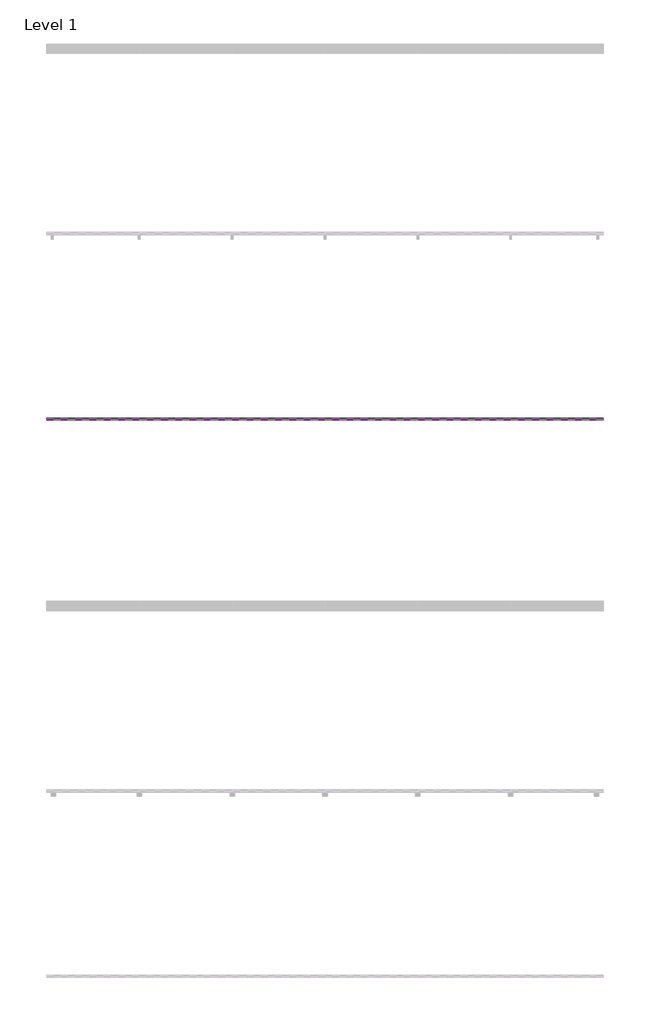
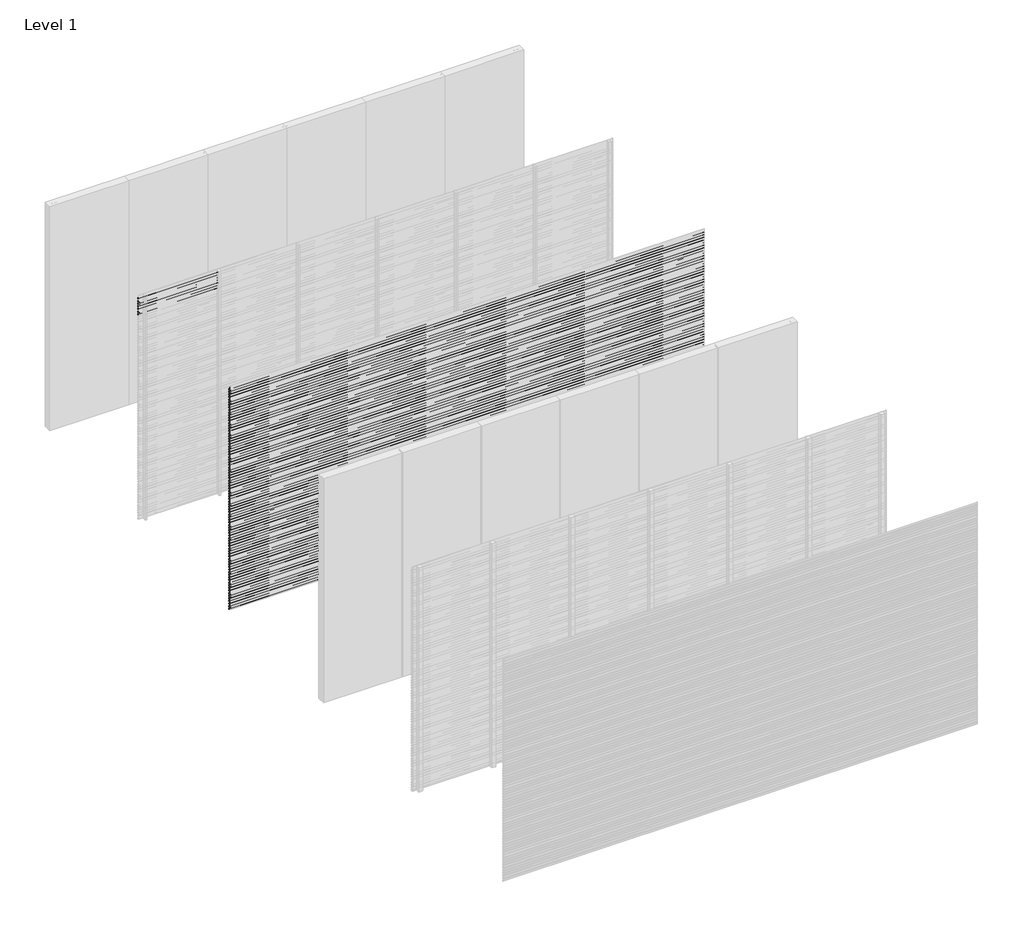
# One storey, part 14 of 25: 98 proxies.
"""IFC4 building model written with IfcOpenShell, lengths in millimetres."""

from ifc_helpers import new_model, si_unit, frame, origin, place, context, project, spatial, polyline, outline, extrude, element, save

model = new_model("IFC4")

# Units and contexts
model_context = context("Model", 3, world=origin())
ifc_project = project(units=[si_unit("LENGTHUNIT", "METRE", prefix="MILLI")], contexts=[model_context])

# Site, building, storey
site = spatial("IfcSite", under=ifc_project)
building = spatial("IfcBuilding", under=site)
storey = spatial("IfcBuildingStorey", under=building, Name="Level 1", Elevation=0.0)

# Proxies
placement = place(None, origin())
element("IfcBuildingElementProxy", 1, Name="Wall Sweeps", at=placement, inside=storey, context=model_context, shape_type="SweptSolid", body=[
    extrude(outline(polyline([(-5995.0, 2975.0), (-5995.0, 2963.942893), (-5976.0, 2948.0), (-5976.0, 2935.0), (-5997.0, 2952.6210923), (-5997.0, 2975.0), (-5995.0, 2975.0)])), frame((0.0, 0.0, 0.0), z_axis=(1.0, 0.0, 0.0), x_axis=(0.0, 1.0, 0.0)), (0.0, 0.0, 1.0), 1000.0),
])
element("IfcBuildingElementProxy", 2, Name="Wall Sweeps", at=placement, inside=storey, context=model_context, shape_type="SweptSolid", body=[
    extrude(outline(polyline([(-5995.0, 2940.0), (-5995.0, 2928.942893), (-5976.0, 2913.0), (-5976.0, 2900.0), (-5997.0, 2917.6210923), (-5997.0, 2940.0), (-5995.0, 2940.0)])), frame((0.0, 0.0, 0.0), z_axis=(1.0, 0.0, 0.0), x_axis=(0.0, 1.0, 0.0)), (0.0, 0.0, 1.0), 1000.0),
])
element("IfcBuildingElementProxy", 3, Name="Wall Sweeps", at=placement, inside=storey, context=model_context, shape_type="SweptSolid", body=[
    extrude(outline(polyline([(-5995.0, 2905.0), (-5995.0, 2893.942893), (-5976.0, 2878.0), (-5976.0, 2865.0), (-5997.0, 2882.6210923), (-5997.0, 2905.0), (-5995.0, 2905.0)])), frame((0.0, 0.0, 0.0), z_axis=(1.0, 0.0, 0.0), x_axis=(0.0, 1.0, 0.0)), (0.0, 0.0, 1.0), 1000.0),
])
element("IfcBuildingElementProxy", 4, Name="Wall Sweeps", at=placement, inside=storey, context=model_context, shape_type="SweptSolid", body=[
    extrude(outline(polyline([(-5995.0, 2870.0), (-5995.0, 2858.942893), (-5976.0, 2843.0), (-5976.0, 2830.0), (-5997.0, 2847.6210923), (-5997.0, 2870.0), (-5995.0, 2870.0)])), frame((0.0, 0.0, 0.0), z_axis=(1.0, 0.0, 0.0), x_axis=(0.0, 1.0, 0.0)), (0.0, 0.0, 1.0), 1000.0),
])
element("IfcBuildingElementProxy", 5, Name="Wall Sweeps", at=placement, inside=storey, context=model_context, shape_type="SweptSolid", body=[
    extrude(outline(polyline([(-5995.0, 2835.0), (-5995.0, 2823.942893), (-5976.0, 2808.0), (-5976.0, 2795.0), (-5997.0, 2812.6210923), (-5997.0, 2835.0), (-5995.0, 2835.0)])), frame((0.0, 0.0, 0.0), z_axis=(1.0, 0.0, 0.0), x_axis=(0.0, 1.0, 0.0)), (0.0, 0.0, 1.0), 1000.0),
])
element("IfcBuildingElementProxy", 6, Name="Wall Sweeps", at=placement, inside=storey, context=model_context, shape_type="SweptSolid", body=[
    extrude(outline(polyline([(-5995.0, 2800.0), (-5995.0, 2788.942893), (-5976.0, 2773.0), (-5976.0, 2760.0), (-5997.0, 2777.6210923), (-5997.0, 2800.0), (-5995.0, 2800.0)])), frame((0.0, 0.0, 0.0), z_axis=(1.0, 0.0, 0.0), x_axis=(0.0, 1.0, 0.0)), (0.0, 0.0, 1.0), 1000.0),
])
element("IfcBuildingElementProxy", 7, Name="Wall Sweeps", at=placement, inside=storey, context=model_context, shape_type="SweptSolid", body=[
    extrude(outline(polyline([(-5995.0, 2765.0), (-5995.0, 2753.942893), (-5976.0, 2738.0), (-5976.0, 2725.0), (-5997.0, 2742.6210923), (-5997.0, 2765.0), (-5995.0, 2765.0)])), frame((0.0, 0.0, 0.0), z_axis=(1.0, 0.0, 0.0), x_axis=(0.0, 1.0, 0.0)), (0.0, 0.0, 1.0), 1000.0),
])
element("IfcBuildingElementProxy", 8, Name="Wall Sweeps", at=placement, inside=storey, context=model_context, shape_type="SweptSolid", body=[
    extrude(outline(polyline([(-7995.0, 2975.0), (-7995.0, 2963.942893), (-7976.0, 2948.0), (-7976.0, 2935.0), (-7997.0, 2952.6210923), (-7997.0, 2975.0), (-7995.0, 2975.0)])), frame((0.0, 0.0, 0.0), z_axis=(1.0, 0.0, 0.0), x_axis=(0.0, 1.0, 0.0)), (0.0, 0.0, 1.0), 6000.0),
])
element("IfcBuildingElementProxy", 9, Name="Wall Sweeps", at=placement, inside=storey, context=model_context, shape_type="SweptSolid", body=[
    extrude(outline(polyline([(-7995.0, 2940.0), (-7995.0, 2928.942893), (-7976.0, 2913.0), (-7976.0, 2900.0), (-7997.0, 2917.6210923), (-7997.0, 2940.0), (-7995.0, 2940.0)])), frame((0.0, 0.0, 0.0), z_axis=(1.0, 0.0, 0.0), x_axis=(0.0, 1.0, 0.0)), (0.0, 0.0, 1.0), 6000.0),
])
element("IfcBuildingElementProxy", 10, Name="Wall Sweeps", at=placement, inside=storey, context=model_context, shape_type="SweptSolid", body=[
    extrude(outline(polyline([(-7995.0, 2905.0), (-7995.0, 2893.942893), (-7976.0, 2878.0), (-7976.0, 2865.0), (-7997.0, 2882.6210923), (-7997.0, 2905.0), (-7995.0, 2905.0)])), frame((0.0, 0.0, 0.0), z_axis=(1.0, 0.0, 0.0), x_axis=(0.0, 1.0, 0.0)), (0.0, 0.0, 1.0), 6000.0),
])
element("IfcBuildingElementProxy", 11, Name="Wall Sweeps", at=placement, inside=storey, context=model_context, shape_type="SweptSolid", body=[
    extrude(outline(polyline([(-7995.0, 2870.0), (-7995.0, 2858.942893), (-7976.0, 2843.0), (-7976.0, 2830.0), (-7997.0, 2847.6210923), (-7997.0, 2870.0), (-7995.0, 2870.0)])), frame((0.0, 0.0, 0.0), z_axis=(1.0, 0.0, 0.0), x_axis=(0.0, 1.0, 0.0)), (0.0, 0.0, 1.0), 6000.0),
])
element("IfcBuildingElementProxy", 12, Name="Wall Sweeps", at=placement, inside=storey, context=model_context, shape_type="SweptSolid", body=[
    extrude(outline(polyline([(-7995.0, 2835.0), (-7995.0, 2823.942893), (-7976.0, 2808.0), (-7976.0, 2795.0), (-7997.0, 2812.6210923), (-7997.0, 2835.0), (-7995.0, 2835.0)])), frame((0.0, 0.0, 0.0), z_axis=(1.0, 0.0, 0.0), x_axis=(0.0, 1.0, 0.0)), (0.0, 0.0, 1.0), 6000.0),
])
element("IfcBuildingElementProxy", 13, Name="Wall Sweeps", at=placement, inside=storey, context=model_context, shape_type="SweptSolid", body=[
    extrude(outline(polyline([(-7995.0, 2800.0), (-7995.0, 2788.942893), (-7976.0, 2773.0), (-7976.0, 2760.0), (-7997.0, 2777.6210923), (-7997.0, 2800.0), (-7995.0, 2800.0)])), frame((0.0, 0.0, 0.0), z_axis=(1.0, 0.0, 0.0), x_axis=(0.0, 1.0, 0.0)), (0.0, 0.0, 1.0), 6000.0),
])
element("IfcBuildingElementProxy", 14, Name="Wall Sweeps", at=placement, inside=storey, context=model_context, shape_type="SweptSolid", body=[
    extrude(outline(polyline([(-7995.0, 2765.0), (-7995.0, 2753.942893), (-7976.0, 2738.0), (-7976.0, 2725.0), (-7997.0, 2742.6210923), (-7997.0, 2765.0), (-7995.0, 2765.0)])), frame((0.0, 0.0, 0.0), z_axis=(1.0, 0.0, 0.0), x_axis=(0.0, 1.0, 0.0)), (0.0, 0.0, 1.0), 6000.0),
])
element("IfcBuildingElementProxy", 15, Name="Wall Sweeps", at=placement, inside=storey, context=model_context, shape_type="SweptSolid", body=[
    extrude(outline(polyline([(-7995.0, 2730.0), (-7995.0, 2718.942893), (-7976.0, 2703.0), (-7976.0, 2690.0), (-7997.0, 2707.6210923), (-7997.0, 2730.0), (-7995.0, 2730.0)])), frame((0.0, 0.0, 0.0), z_axis=(1.0, 0.0, 0.0), x_axis=(0.0, 1.0, 0.0)), (0.0, 0.0, 1.0), 6000.0),
])
element("IfcBuildingElementProxy", 16, Name="Wall Sweeps", at=placement, inside=storey, context=model_context, shape_type="SweptSolid", body=[
    extrude(outline(polyline([(-7995.0, 2695.0), (-7995.0, 2683.942893), (-7976.0, 2668.0), (-7976.0, 2655.0), (-7997.0, 2672.6210923), (-7997.0, 2695.0), (-7995.0, 2695.0)])), frame((0.0, 0.0, 0.0), z_axis=(1.0, 0.0, 0.0), x_axis=(0.0, 1.0, 0.0)), (0.0, 0.0, 1.0), 6000.0),
])
element("IfcBuildingElementProxy", 17, Name="Wall Sweeps", at=placement, inside=storey, context=model_context, shape_type="SweptSolid", body=[
    extrude(outline(polyline([(-7995.0, 2660.0), (-7995.0, 2648.942893), (-7976.0, 2633.0), (-7976.0, 2620.0), (-7997.0, 2637.6210923), (-7997.0, 2660.0), (-7995.0, 2660.0)])), frame((0.0, 0.0, 0.0), z_axis=(1.0, 0.0, 0.0), x_axis=(0.0, 1.0, 0.0)), (0.0, 0.0, 1.0), 6000.0),
])
element("IfcBuildingElementProxy", 18, Name="Wall Sweeps", at=placement, inside=storey, context=model_context, shape_type="SweptSolid", body=[
    extrude(outline(polyline([(-7995.0, 2625.0), (-7995.0, 2613.942893), (-7976.0, 2598.0), (-7976.0, 2585.0), (-7997.0, 2602.6210923), (-7997.0, 2625.0), (-7995.0, 2625.0)])), frame((0.0, 0.0, 0.0), z_axis=(1.0, 0.0, 0.0), x_axis=(0.0, 1.0, 0.0)), (0.0, 0.0, 1.0), 6000.0),
])
element("IfcBuildingElementProxy", 19, Name="Wall Sweeps", at=placement, inside=storey, context=model_context, shape_type="SweptSolid", body=[
    extrude(outline(polyline([(-7995.0, 2590.0), (-7995.0, 2578.942893), (-7976.0, 2563.0), (-7976.0, 2550.0), (-7997.0, 2567.6210923), (-7997.0, 2590.0), (-7995.0, 2590.0)])), frame((0.0, 0.0, 0.0), z_axis=(1.0, 0.0, 0.0), x_axis=(0.0, 1.0, 0.0)), (0.0, 0.0, 1.0), 6000.0),
])
element("IfcBuildingElementProxy", 20, Name="Wall Sweeps", at=placement, inside=storey, context=model_context, shape_type="SweptSolid", body=[
    extrude(outline(polyline([(-7995.0, 2555.0), (-7995.0, 2543.942893), (-7976.0, 2528.0), (-7976.0, 2515.0), (-7997.0, 2532.6210923), (-7997.0, 2555.0), (-7995.0, 2555.0)])), frame((0.0, 0.0, 0.0), z_axis=(1.0, 0.0, 0.0), x_axis=(0.0, 1.0, 0.0)), (0.0, 0.0, 1.0), 6000.0),
])
element("IfcBuildingElementProxy", 21, Name="Wall Sweeps", at=placement, inside=storey, context=model_context, shape_type="SweptSolid", body=[
    extrude(outline(polyline([(-7995.0, 2520.0), (-7995.0, 2508.942893), (-7976.0, 2493.0), (-7976.0, 2480.0), (-7997.0, 2497.6210923), (-7997.0, 2520.0), (-7995.0, 2520.0)])), frame((0.0, 0.0, 0.0), z_axis=(1.0, 0.0, 0.0), x_axis=(0.0, 1.0, 0.0)), (0.0, 0.0, 1.0), 6000.0),
])
element("IfcBuildingElementProxy", 22, Name="Wall Sweeps", at=placement, inside=storey, context=model_context, shape_type="SweptSolid", body=[
    extrude(outline(polyline([(-7995.0, 2485.0), (-7995.0, 2473.942893), (-7976.0, 2458.0), (-7976.0, 2445.0), (-7997.0, 2462.6210923), (-7997.0, 2485.0), (-7995.0, 2485.0)])), frame((0.0, 0.0, 0.0), z_axis=(1.0, 0.0, 0.0), x_axis=(0.0, 1.0, 0.0)), (0.0, 0.0, 1.0), 6000.0),
])
element("IfcBuildingElementProxy", 23, Name="Wall Sweeps", at=placement, inside=storey, context=model_context, shape_type="SweptSolid", body=[
    extrude(outline(polyline([(-7995.0, 2450.0), (-7995.0, 2438.942893), (-7976.0, 2423.0), (-7976.0, 2410.0), (-7997.0, 2427.6210923), (-7997.0, 2450.0), (-7995.0, 2450.0)])), frame((0.0, 0.0, 0.0), z_axis=(1.0, 0.0, 0.0), x_axis=(0.0, 1.0, 0.0)), (0.0, 0.0, 1.0), 6000.0),
])
element("IfcBuildingElementProxy", 24, Name="Wall Sweeps", at=placement, inside=storey, context=model_context, shape_type="SweptSolid", body=[
    extrude(outline(polyline([(-7995.0, 2415.0), (-7995.0, 2403.942893), (-7976.0, 2388.0), (-7976.0, 2375.0), (-7997.0, 2392.6210923), (-7997.0, 2415.0), (-7995.0, 2415.0)])), frame((0.0, 0.0, 0.0), z_axis=(1.0, 0.0, 0.0), x_axis=(0.0, 1.0, 0.0)), (0.0, 0.0, 1.0), 6000.0),
])
element("IfcBuildingElementProxy", 25, Name="Wall Sweeps", at=placement, inside=storey, context=model_context, shape_type="SweptSolid", body=[
    extrude(outline(polyline([(-7995.0, 2380.0), (-7995.0, 2368.942893), (-7976.0, 2353.0), (-7976.0, 2340.0), (-7997.0, 2357.6210923), (-7997.0, 2380.0), (-7995.0, 2380.0)])), frame((0.0, 0.0, 0.0), z_axis=(1.0, 0.0, 0.0), x_axis=(0.0, 1.0, 0.0)), (0.0, 0.0, 1.0), 6000.0),
])
element("IfcBuildingElementProxy", 26, Name="Wall Sweeps", at=placement, inside=storey, context=model_context, shape_type="SweptSolid", body=[
    extrude(outline(polyline([(-7995.0, 2345.0), (-7995.0, 2333.942893), (-7976.0, 2318.0), (-7976.0, 2305.0), (-7997.0, 2322.6210923), (-7997.0, 2345.0), (-7995.0, 2345.0)])), frame((0.0, 0.0, 0.0), z_axis=(1.0, 0.0, 0.0), x_axis=(0.0, 1.0, 0.0)), (0.0, 0.0, 1.0), 6000.0),
])
element("IfcBuildingElementProxy", 27, Name="Wall Sweeps", at=placement, inside=storey, context=model_context, shape_type="SweptSolid", body=[
    extrude(outline(polyline([(-7995.0, 2310.0), (-7995.0, 2298.942893), (-7976.0, 2283.0), (-7976.0, 2270.0), (-7997.0, 2287.6210923), (-7997.0, 2310.0), (-7995.0, 2310.0)])), frame((0.0, 0.0, 0.0), z_axis=(1.0, 0.0, 0.0), x_axis=(0.0, 1.0, 0.0)), (0.0, 0.0, 1.0), 6000.0),
])
element("IfcBuildingElementProxy", 28, Name="Wall Sweeps", at=placement, inside=storey, context=model_context, shape_type="SweptSolid", body=[
    extrude(outline(polyline([(-7995.0, 2275.0), (-7995.0, 2263.942893), (-7976.0, 2248.0), (-7976.0, 2235.0), (-7997.0, 2252.6210923), (-7997.0, 2275.0), (-7995.0, 2275.0)])), frame((0.0, 0.0, 0.0), z_axis=(1.0, 0.0, 0.0), x_axis=(0.0, 1.0, 0.0)), (0.0, 0.0, 1.0), 6000.0),
])
element("IfcBuildingElementProxy", 29, Name="Wall Sweeps", at=placement, inside=storey, context=model_context, shape_type="SweptSolid", body=[
    extrude(outline(polyline([(-7995.0, 2240.0), (-7995.0, 2228.942893), (-7976.0, 2213.0), (-7976.0, 2200.0), (-7997.0, 2217.6210923), (-7997.0, 2240.0), (-7995.0, 2240.0)])), frame((0.0, 0.0, 0.0), z_axis=(1.0, 0.0, 0.0), x_axis=(0.0, 1.0, 0.0)), (0.0, 0.0, 1.0), 6000.0),
])
element("IfcBuildingElementProxy", 30, Name="Wall Sweeps", at=placement, inside=storey, context=model_context, shape_type="SweptSolid", body=[
    extrude(outline(polyline([(-7995.0, 2205.0), (-7995.0, 2193.942893), (-7976.0, 2178.0), (-7976.0, 2165.0), (-7997.0, 2182.6210923), (-7997.0, 2205.0), (-7995.0, 2205.0)])), frame((0.0, 0.0, 0.0), z_axis=(1.0, 0.0, 0.0), x_axis=(0.0, 1.0, 0.0)), (0.0, 0.0, 1.0), 6000.0),
])
element("IfcBuildingElementProxy", 31, Name="Wall Sweeps", at=placement, inside=storey, context=model_context, shape_type="SweptSolid", body=[
    extrude(outline(polyline([(-7995.0, 2170.0), (-7995.0, 2158.942893), (-7976.0, 2143.0), (-7976.0, 2130.0), (-7997.0, 2147.6210923), (-7997.0, 2170.0), (-7995.0, 2170.0)])), frame((0.0, 0.0, 0.0), z_axis=(1.0, 0.0, 0.0), x_axis=(0.0, 1.0, 0.0)), (0.0, 0.0, 1.0), 6000.0),
])
element("IfcBuildingElementProxy", 32, Name="Wall Sweeps", at=placement, inside=storey, context=model_context, shape_type="SweptSolid", body=[
    extrude(outline(polyline([(-7995.0, 2135.0), (-7995.0, 2123.942893), (-7976.0, 2108.0), (-7976.0, 2095.0), (-7997.0, 2112.6210923), (-7997.0, 2135.0), (-7995.0, 2135.0)])), frame((0.0, 0.0, 0.0), z_axis=(1.0, 0.0, 0.0), x_axis=(0.0, 1.0, 0.0)), (0.0, 0.0, 1.0), 6000.0),
])
element("IfcBuildingElementProxy", 33, Name="Wall Sweeps", at=placement, inside=storey, context=model_context, shape_type="SweptSolid", body=[
    extrude(outline(polyline([(-7995.0, 2100.0), (-7995.0, 2088.942893), (-7976.0, 2073.0), (-7976.0, 2060.0), (-7997.0, 2077.6210923), (-7997.0, 2100.0), (-7995.0, 2100.0)])), frame((0.0, 0.0, 0.0), z_axis=(1.0, 0.0, 0.0), x_axis=(0.0, 1.0, 0.0)), (0.0, 0.0, 1.0), 6000.0),
])
element("IfcBuildingElementProxy", 34, Name="Wall Sweeps", at=placement, inside=storey, context=model_context, shape_type="SweptSolid", body=[
    extrude(outline(polyline([(-7995.0, 2065.0), (-7995.0, 2053.942893), (-7976.0, 2038.0), (-7976.0, 2025.0), (-7997.0, 2042.6210923), (-7997.0, 2065.0), (-7995.0, 2065.0)])), frame((0.0, 0.0, 0.0), z_axis=(1.0, 0.0, 0.0), x_axis=(0.0, 1.0, 0.0)), (0.0, 0.0, 1.0), 6000.0),
])
element("IfcBuildingElementProxy", 35, Name="Wall Sweeps", at=placement, inside=storey, context=model_context, shape_type="SweptSolid", body=[
    extrude(outline(polyline([(-7995.0, 2030.0), (-7995.0, 2018.942893), (-7976.0, 2003.0), (-7976.0, 1990.0), (-7997.0, 2007.6210923), (-7997.0, 2030.0), (-7995.0, 2030.0)])), frame((0.0, 0.0, 0.0), z_axis=(1.0, 0.0, 0.0), x_axis=(0.0, 1.0, 0.0)), (0.0, 0.0, 1.0), 6000.0),
])
element("IfcBuildingElementProxy", 36, Name="Wall Sweeps", at=placement, inside=storey, context=model_context, shape_type="SweptSolid", body=[
    extrude(outline(polyline([(-7995.0, 1995.0), (-7995.0, 1983.942893), (-7976.0, 1968.0), (-7976.0, 1955.0), (-7997.0, 1972.6210923), (-7997.0, 1995.0), (-7995.0, 1995.0)])), frame((0.0, 0.0, 0.0), z_axis=(1.0, 0.0, 0.0), x_axis=(0.0, 1.0, 0.0)), (0.0, 0.0, 1.0), 6000.0),
])
element("IfcBuildingElementProxy", 37, Name="Wall Sweeps", at=placement, inside=storey, context=model_context, shape_type="SweptSolid", body=[
    extrude(outline(polyline([(-7995.0, 1960.0), (-7995.0, 1948.942893), (-7976.0, 1933.0), (-7976.0, 1920.0), (-7997.0, 1937.6210923), (-7997.0, 1960.0), (-7995.0, 1960.0)])), frame((0.0, 0.0, 0.0), z_axis=(1.0, 0.0, 0.0), x_axis=(0.0, 1.0, 0.0)), (0.0, 0.0, 1.0), 6000.0),
])
element("IfcBuildingElementProxy", 38, Name="Wall Sweeps", at=placement, inside=storey, context=model_context, shape_type="SweptSolid", body=[
    extrude(outline(polyline([(-7995.0, 1925.0), (-7995.0, 1913.942893), (-7976.0, 1898.0), (-7976.0, 1885.0), (-7997.0, 1902.6210923), (-7997.0, 1925.0), (-7995.0, 1925.0)])), frame((0.0, 0.0, 0.0), z_axis=(1.0, 0.0, 0.0), x_axis=(0.0, 1.0, 0.0)), (0.0, 0.0, 1.0), 6000.0),
])
element("IfcBuildingElementProxy", 39, Name="Wall Sweeps", at=placement, inside=storey, context=model_context, shape_type="SweptSolid", body=[
    extrude(outline(polyline([(-7995.0, 1890.0), (-7995.0, 1878.942893), (-7976.0, 1863.0), (-7976.0, 1850.0), (-7997.0, 1867.6210923), (-7997.0, 1890.0), (-7995.0, 1890.0)])), frame((0.0, 0.0, 0.0), z_axis=(1.0, 0.0, 0.0), x_axis=(0.0, 1.0, 0.0)), (0.0, 0.0, 1.0), 6000.0),
])
element("IfcBuildingElementProxy", 40, Name="Wall Sweeps", at=placement, inside=storey, context=model_context, shape_type="SweptSolid", body=[
    extrude(outline(polyline([(-7995.0, 1855.0), (-7995.0, 1843.942893), (-7976.0, 1828.0), (-7976.0, 1815.0), (-7997.0, 1832.6210923), (-7997.0, 1855.0), (-7995.0, 1855.0)])), frame((0.0, 0.0, 0.0), z_axis=(1.0, 0.0, 0.0), x_axis=(0.0, 1.0, 0.0)), (0.0, 0.0, 1.0), 6000.0),
])
element("IfcBuildingElementProxy", 41, Name="Wall Sweeps", at=placement, inside=storey, context=model_context, shape_type="SweptSolid", body=[
    extrude(outline(polyline([(-7995.0, 1820.0), (-7995.0, 1808.942893), (-7976.0, 1793.0), (-7976.0, 1780.0), (-7997.0, 1797.6210923), (-7997.0, 1820.0), (-7995.0, 1820.0)])), frame((0.0, 0.0, 0.0), z_axis=(1.0, 0.0, 0.0), x_axis=(0.0, 1.0, 0.0)), (0.0, 0.0, 1.0), 6000.0),
])
element("IfcBuildingElementProxy", 42, Name="Wall Sweeps", at=placement, inside=storey, context=model_context, shape_type="SweptSolid", body=[
    extrude(outline(polyline([(-7995.0, 1785.0), (-7995.0, 1773.942893), (-7976.0, 1758.0), (-7976.0, 1745.0), (-7997.0, 1762.6210923), (-7997.0, 1785.0), (-7995.0, 1785.0)])), frame((0.0, 0.0, 0.0), z_axis=(1.0, 0.0, 0.0), x_axis=(0.0, 1.0, 0.0)), (0.0, 0.0, 1.0), 6000.0),
])
element("IfcBuildingElementProxy", 43, Name="Wall Sweeps", at=placement, inside=storey, context=model_context, shape_type="SweptSolid", body=[
    extrude(outline(polyline([(-7995.0, 1750.0), (-7995.0, 1738.942893), (-7976.0, 1723.0), (-7976.0, 1710.0), (-7997.0, 1727.6210923), (-7997.0, 1750.0), (-7995.0, 1750.0)])), frame((0.0, 0.0, 0.0), z_axis=(1.0, 0.0, 0.0), x_axis=(0.0, 1.0, 0.0)), (0.0, 0.0, 1.0), 6000.0),
])
element("IfcBuildingElementProxy", 44, Name="Wall Sweeps", at=placement, inside=storey, context=model_context, shape_type="SweptSolid", body=[
    extrude(outline(polyline([(-7995.0, 1715.0), (-7995.0, 1703.942893), (-7976.0, 1688.0), (-7976.0, 1675.0), (-7997.0, 1692.6210923), (-7997.0, 1715.0), (-7995.0, 1715.0)])), frame((0.0, 0.0, 0.0), z_axis=(1.0, 0.0, 0.0), x_axis=(0.0, 1.0, 0.0)), (0.0, 0.0, 1.0), 6000.0),
])
element("IfcBuildingElementProxy", 45, Name="Wall Sweeps", at=placement, inside=storey, context=model_context, shape_type="SweptSolid", body=[
    extrude(outline(polyline([(-7995.0, 1680.0), (-7995.0, 1668.942893), (-7976.0, 1653.0), (-7976.0, 1640.0), (-7997.0, 1657.6210923), (-7997.0, 1680.0), (-7995.0, 1680.0)])), frame((0.0, 0.0, 0.0), z_axis=(1.0, 0.0, 0.0), x_axis=(0.0, 1.0, 0.0)), (0.0, 0.0, 1.0), 6000.0),
])
element("IfcBuildingElementProxy", 46, Name="Wall Sweeps", at=placement, inside=storey, context=model_context, shape_type="SweptSolid", body=[
    extrude(outline(polyline([(-7995.0, 1645.0), (-7995.0, 1633.942893), (-7976.0, 1618.0), (-7976.0, 1605.0), (-7997.0, 1622.6210923), (-7997.0, 1645.0), (-7995.0, 1645.0)])), frame((0.0, 0.0, 0.0), z_axis=(1.0, 0.0, 0.0), x_axis=(0.0, 1.0, 0.0)), (0.0, 0.0, 1.0), 6000.0),
])
element("IfcBuildingElementProxy", 47, Name="Wall Sweeps", at=placement, inside=storey, context=model_context, shape_type="SweptSolid", body=[
    extrude(outline(polyline([(-7995.0, 1610.0), (-7995.0, 1598.942893), (-7976.0, 1583.0), (-7976.0, 1570.0), (-7997.0, 1587.6210923), (-7997.0, 1610.0), (-7995.0, 1610.0)])), frame((0.0, 0.0, 0.0), z_axis=(1.0, 0.0, 0.0), x_axis=(0.0, 1.0, 0.0)), (0.0, 0.0, 1.0), 6000.0),
])
element("IfcBuildingElementProxy", 48, Name="Wall Sweeps", at=placement, inside=storey, context=model_context, shape_type="SweptSolid", body=[
    extrude(outline(polyline([(-7995.0, 1575.0), (-7995.0, 1563.942893), (-7976.0, 1548.0), (-7976.0, 1535.0), (-7997.0, 1552.6210923), (-7997.0, 1575.0), (-7995.0, 1575.0)])), frame((0.0, 0.0, 0.0), z_axis=(1.0, 0.0, 0.0), x_axis=(0.0, 1.0, 0.0)), (0.0, 0.0, 1.0), 6000.0),
])
element("IfcBuildingElementProxy", 49, Name="Wall Sweeps", at=placement, inside=storey, context=model_context, shape_type="SweptSolid", body=[
    extrude(outline(polyline([(-7995.0, 1540.0), (-7995.0, 1528.942893), (-7976.0, 1513.0), (-7976.0, 1500.0), (-7997.0, 1517.6210923), (-7997.0, 1540.0), (-7995.0, 1540.0)])), frame((0.0, 0.0, 0.0), z_axis=(1.0, 0.0, 0.0), x_axis=(0.0, 1.0, 0.0)), (0.0, 0.0, 1.0), 6000.0),
])
element("IfcBuildingElementProxy", 50, Name="Wall Sweeps", at=placement, inside=storey, context=model_context, shape_type="SweptSolid", body=[
    extrude(outline(polyline([(-7995.0, 1505.0), (-7995.0, 1493.942893), (-7976.0, 1478.0), (-7976.0, 1465.0), (-7997.0, 1482.6210923), (-7997.0, 1505.0), (-7995.0, 1505.0)])), frame((0.0, 0.0, 0.0), z_axis=(1.0, 0.0, 0.0), x_axis=(0.0, 1.0, 0.0)), (0.0, 0.0, 1.0), 6000.0),
])
element("IfcBuildingElementProxy", 51, Name="Wall Sweeps", at=placement, inside=storey, context=model_context, shape_type="SweptSolid", body=[
    extrude(outline(polyline([(-7995.0, 1470.0), (-7995.0, 1458.942893), (-7976.0, 1443.0), (-7976.0, 1430.0), (-7997.0, 1447.6210923), (-7997.0, 1470.0), (-7995.0, 1470.0)])), frame((0.0, 0.0, 0.0), z_axis=(1.0, 0.0, 0.0), x_axis=(0.0, 1.0, 0.0)), (0.0, 0.0, 1.0), 6000.0),
])
element("IfcBuildingElementProxy", 52, Name="Wall Sweeps", at=placement, inside=storey, context=model_context, shape_type="SweptSolid", body=[
    extrude(outline(polyline([(-7995.0, 1435.0), (-7995.0, 1423.942893), (-7976.0, 1408.0), (-7976.0, 1395.0), (-7997.0, 1412.6210923), (-7997.0, 1435.0), (-7995.0, 1435.0)])), frame((0.0, 0.0, 0.0), z_axis=(1.0, 0.0, 0.0), x_axis=(0.0, 1.0, 0.0)), (0.0, 0.0, 1.0), 6000.0),
])
element("IfcBuildingElementProxy", 53, Name="Wall Sweeps", at=placement, inside=storey, context=model_context, shape_type="SweptSolid", body=[
    extrude(outline(polyline([(-7995.0, 1400.0), (-7995.0, 1388.942893), (-7976.0, 1373.0), (-7976.0, 1360.0), (-7997.0, 1377.6210923), (-7997.0, 1400.0), (-7995.0, 1400.0)])), frame((0.0, 0.0, 0.0), z_axis=(1.0, 0.0, 0.0), x_axis=(0.0, 1.0, 0.0)), (0.0, 0.0, 1.0), 6000.0),
])
element("IfcBuildingElementProxy", 54, Name="Wall Sweeps", at=placement, inside=storey, context=model_context, shape_type="SweptSolid", body=[
    extrude(outline(polyline([(-7995.0, 1365.0), (-7995.0, 1353.942893), (-7976.0, 1338.0), (-7976.0, 1325.0), (-7997.0, 1342.6210923), (-7997.0, 1365.0), (-7995.0, 1365.0)])), frame((0.0, 0.0, 0.0), z_axis=(1.0, 0.0, 0.0), x_axis=(0.0, 1.0, 0.0)), (0.0, 0.0, 1.0), 6000.0),
])
element("IfcBuildingElementProxy", 55, Name="Wall Sweeps", at=placement, inside=storey, context=model_context, shape_type="SweptSolid", body=[
    extrude(outline(polyline([(-7995.0, 1330.0), (-7995.0, 1318.942893), (-7976.0, 1303.0), (-7976.0, 1290.0), (-7997.0, 1307.6210923), (-7997.0, 1330.0), (-7995.0, 1330.0)])), frame((0.0, 0.0, 0.0), z_axis=(1.0, 0.0, 0.0), x_axis=(0.0, 1.0, 0.0)), (0.0, 0.0, 1.0), 6000.0),
])
element("IfcBuildingElementProxy", 56, Name="Wall Sweeps", at=placement, inside=storey, context=model_context, shape_type="SweptSolid", body=[
    extrude(outline(polyline([(-7995.0, 1295.0), (-7995.0, 1283.942893), (-7976.0, 1268.0), (-7976.0, 1255.0), (-7997.0, 1272.6210923), (-7997.0, 1295.0), (-7995.0, 1295.0)])), frame((0.0, 0.0, 0.0), z_axis=(1.0, 0.0, 0.0), x_axis=(0.0, 1.0, 0.0)), (0.0, 0.0, 1.0), 6000.0),
])
element("IfcBuildingElementProxy", 57, Name="Wall Sweeps", at=placement, inside=storey, context=model_context, shape_type="SweptSolid", body=[
    extrude(outline(polyline([(-7995.0, 1260.0), (-7995.0, 1248.942893), (-7976.0, 1233.0), (-7976.0, 1220.0), (-7997.0, 1237.6210923), (-7997.0, 1260.0), (-7995.0, 1260.0)])), frame((0.0, 0.0, 0.0), z_axis=(1.0, 0.0, 0.0), x_axis=(0.0, 1.0, 0.0)), (0.0, 0.0, 1.0), 6000.0),
])
element("IfcBuildingElementProxy", 58, Name="Wall Sweeps", at=placement, inside=storey, context=model_context, shape_type="SweptSolid", body=[
    extrude(outline(polyline([(-7995.0, 1225.0), (-7995.0, 1213.942893), (-7976.0, 1198.0), (-7976.0, 1185.0), (-7997.0, 1202.6210923), (-7997.0, 1225.0), (-7995.0, 1225.0)])), frame((0.0, 0.0, 0.0), z_axis=(1.0, 0.0, 0.0), x_axis=(0.0, 1.0, 0.0)), (0.0, 0.0, 1.0), 6000.0),
])
element("IfcBuildingElementProxy", 59, Name="Wall Sweeps", at=placement, inside=storey, context=model_context, shape_type="SweptSolid", body=[
    extrude(outline(polyline([(-7995.0, 1190.0), (-7995.0, 1178.942893), (-7976.0, 1163.0), (-7976.0, 1150.0), (-7997.0, 1167.6210923), (-7997.0, 1190.0), (-7995.0, 1190.0)])), frame((0.0, 0.0, 0.0), z_axis=(1.0, 0.0, 0.0), x_axis=(0.0, 1.0, 0.0)), (0.0, 0.0, 1.0), 6000.0),
])
element("IfcBuildingElementProxy", 60, Name="Wall Sweeps", at=placement, inside=storey, context=model_context, shape_type="SweptSolid", body=[
    extrude(outline(polyline([(-7995.0, 1155.0), (-7995.0, 1143.942893), (-7976.0, 1128.0), (-7976.0, 1115.0), (-7997.0, 1132.6210923), (-7997.0, 1155.0), (-7995.0, 1155.0)])), frame((0.0, 0.0, 0.0), z_axis=(1.0, 0.0, 0.0), x_axis=(0.0, 1.0, 0.0)), (0.0, 0.0, 1.0), 6000.0),
])
element("IfcBuildingElementProxy", 61, Name="Wall Sweeps", at=placement, inside=storey, context=model_context, shape_type="SweptSolid", body=[
    extrude(outline(polyline([(-7995.0, 1120.0), (-7995.0, 1108.942893), (-7976.0, 1093.0), (-7976.0, 1080.0), (-7997.0, 1097.6210923), (-7997.0, 1120.0), (-7995.0, 1120.0)])), frame((0.0, 0.0, 0.0), z_axis=(1.0, 0.0, 0.0), x_axis=(0.0, 1.0, 0.0)), (0.0, 0.0, 1.0), 6000.0),
])
element("IfcBuildingElementProxy", 62, Name="Wall Sweeps", at=placement, inside=storey, context=model_context, shape_type="SweptSolid", body=[
    extrude(outline(polyline([(-7995.0, 1085.0), (-7995.0, 1073.942893), (-7976.0, 1058.0), (-7976.0, 1045.0), (-7997.0, 1062.6210923), (-7997.0, 1085.0), (-7995.0, 1085.0)])), frame((0.0, 0.0, 0.0), z_axis=(1.0, 0.0, 0.0), x_axis=(0.0, 1.0, 0.0)), (0.0, 0.0, 1.0), 6000.0),
])
element("IfcBuildingElementProxy", 63, Name="Wall Sweeps", at=placement, inside=storey, context=model_context, shape_type="SweptSolid", body=[
    extrude(outline(polyline([(-7995.0, 1050.0), (-7995.0, 1038.942893), (-7976.0, 1023.0), (-7976.0, 1010.0), (-7997.0, 1027.6210923), (-7997.0, 1050.0), (-7995.0, 1050.0)])), frame((0.0, 0.0, 0.0), z_axis=(1.0, 0.0, 0.0), x_axis=(0.0, 1.0, 0.0)), (0.0, 0.0, 1.0), 6000.0),
])
element("IfcBuildingElementProxy", 64, Name="Wall Sweeps", at=placement, inside=storey, context=model_context, shape_type="SweptSolid", body=[
    extrude(outline(polyline([(-7995.0, 1015.0), (-7995.0, 1003.942893), (-7976.0, 988.0), (-7976.0, 975.0), (-7997.0, 992.6210923), (-7997.0, 1015.0), (-7995.0, 1015.0)])), frame((0.0, 0.0, 0.0), z_axis=(1.0, 0.0, 0.0), x_axis=(0.0, 1.0, 0.0)), (0.0, 0.0, 1.0), 6000.0),
])
element("IfcBuildingElementProxy", 65, Name="Wall Sweeps", at=placement, inside=storey, context=model_context, shape_type="SweptSolid", body=[
    extrude(outline(polyline([(-7995.0, 980.0), (-7995.0, 968.942893), (-7976.0, 953.0), (-7976.0, 940.0), (-7997.0, 957.6210923), (-7997.0, 980.0), (-7995.0, 980.0)])), frame((0.0, 0.0, 0.0), z_axis=(1.0, 0.0, 0.0), x_axis=(0.0, 1.0, 0.0)), (0.0, 0.0, 1.0), 6000.0),
])
element("IfcBuildingElementProxy", 66, Name="Wall Sweeps", at=placement, inside=storey, context=model_context, shape_type="SweptSolid", body=[
    extrude(outline(polyline([(-7995.0, 945.0), (-7995.0, 933.942893), (-7976.0, 918.0), (-7976.0, 905.0), (-7997.0, 922.6210923), (-7997.0, 945.0), (-7995.0, 945.0)])), frame((0.0, 0.0, 0.0), z_axis=(1.0, 0.0, 0.0), x_axis=(0.0, 1.0, 0.0)), (0.0, 0.0, 1.0), 6000.0),
])
element("IfcBuildingElementProxy", 67, Name="Wall Sweeps", at=placement, inside=storey, context=model_context, shape_type="SweptSolid", body=[
    extrude(outline(polyline([(-7995.0, 910.0), (-7995.0, 898.942893), (-7976.0, 883.0), (-7976.0, 870.0), (-7997.0, 887.6210923), (-7997.0, 910.0), (-7995.0, 910.0)])), frame((0.0, 0.0, 0.0), z_axis=(1.0, 0.0, 0.0), x_axis=(0.0, 1.0, 0.0)), (0.0, 0.0, 1.0), 6000.0),
])
element("IfcBuildingElementProxy", 68, Name="Wall Sweeps", at=placement, inside=storey, context=model_context, shape_type="SweptSolid", body=[
    extrude(outline(polyline([(-7995.0, 875.0), (-7995.0, 863.942893), (-7976.0, 848.0), (-7976.0, 835.0), (-7997.0, 852.6210923), (-7997.0, 875.0), (-7995.0, 875.0)])), frame((0.0, 0.0, 0.0), z_axis=(1.0, 0.0, 0.0), x_axis=(0.0, 1.0, 0.0)), (0.0, 0.0, 1.0), 6000.0),
])
element("IfcBuildingElementProxy", 69, Name="Wall Sweeps", at=placement, inside=storey, context=model_context, shape_type="SweptSolid", body=[
    extrude(outline(polyline([(-7995.0, 840.0), (-7995.0, 828.942893), (-7976.0, 813.0), (-7976.0, 800.0), (-7997.0, 817.6210923), (-7997.0, 840.0), (-7995.0, 840.0)])), frame((0.0, 0.0, 0.0), z_axis=(1.0, 0.0, 0.0), x_axis=(0.0, 1.0, 0.0)), (0.0, 0.0, 1.0), 6000.0),
])
element("IfcBuildingElementProxy", 70, Name="Wall Sweeps", at=placement, inside=storey, context=model_context, shape_type="SweptSolid", body=[
    extrude(outline(polyline([(-7995.0, 805.0), (-7995.0, 793.942893), (-7976.0, 778.0), (-7976.0, 765.0), (-7997.0, 782.6210923), (-7997.0, 805.0), (-7995.0, 805.0)])), frame((0.0, 0.0, 0.0), z_axis=(1.0, 0.0, 0.0), x_axis=(0.0, 1.0, 0.0)), (0.0, 0.0, 1.0), 6000.0),
])
element("IfcBuildingElementProxy", 71, Name="Wall Sweeps", at=placement, inside=storey, context=model_context, shape_type="SweptSolid", body=[
    extrude(outline(polyline([(-7995.0, 770.0), (-7995.0, 758.942893), (-7976.0, 743.0), (-7976.0, 730.0), (-7997.0, 747.6210923), (-7997.0, 770.0), (-7995.0, 770.0)])), frame((0.0, 0.0, 0.0), z_axis=(1.0, 0.0, 0.0), x_axis=(0.0, 1.0, 0.0)), (0.0, 0.0, 1.0), 6000.0),
])
element("IfcBuildingElementProxy", 72, Name="Wall Sweeps", at=placement, inside=storey, context=model_context, shape_type="SweptSolid", body=[
    extrude(outline(polyline([(-7995.0, 735.0), (-7995.0, 723.942893), (-7976.0, 708.0), (-7976.0, 695.0), (-7997.0, 712.6210923), (-7997.0, 735.0), (-7995.0, 735.0)])), frame((0.0, 0.0, 0.0), z_axis=(1.0, 0.0, 0.0), x_axis=(0.0, 1.0, 0.0)), (0.0, 0.0, 1.0), 6000.0),
])
element("IfcBuildingElementProxy", 73, Name="Wall Sweeps", at=placement, inside=storey, context=model_context, shape_type="SweptSolid", body=[
    extrude(outline(polyline([(-7995.0, 700.0), (-7995.0, 688.942893), (-7976.0, 673.0), (-7976.0, 660.0), (-7997.0, 677.6210923), (-7997.0, 700.0), (-7995.0, 700.0)])), frame((0.0, 0.0, 0.0), z_axis=(1.0, 0.0, 0.0), x_axis=(0.0, 1.0, 0.0)), (0.0, 0.0, 1.0), 6000.0),
])
element("IfcBuildingElementProxy", 74, Name="Wall Sweeps", at=placement, inside=storey, context=model_context, shape_type="SweptSolid", body=[
    extrude(outline(polyline([(-7995.0, 665.0), (-7995.0, 653.942893), (-7976.0, 638.0), (-7976.0, 625.0), (-7997.0, 642.6210923), (-7997.0, 665.0), (-7995.0, 665.0)])), frame((0.0, 0.0, 0.0), z_axis=(1.0, 0.0, 0.0), x_axis=(0.0, 1.0, 0.0)), (0.0, 0.0, 1.0), 6000.0),
])
element("IfcBuildingElementProxy", 75, Name="Wall Sweeps", at=placement, inside=storey, context=model_context, shape_type="SweptSolid", body=[
    extrude(outline(polyline([(-7995.0, 630.0), (-7995.0, 618.942893), (-7976.0, 603.0), (-7976.0, 590.0), (-7997.0, 607.6210923), (-7997.0, 630.0), (-7995.0, 630.0)])), frame((0.0, 0.0, 0.0), z_axis=(1.0, 0.0, 0.0), x_axis=(0.0, 1.0, 0.0)), (0.0, 0.0, 1.0), 6000.0),
])
element("IfcBuildingElementProxy", 76, Name="Wall Sweeps", at=placement, inside=storey, context=model_context, shape_type="SweptSolid", body=[
    extrude(outline(polyline([(-7995.0, 595.0), (-7995.0, 583.942893), (-7976.0, 568.0), (-7976.0, 555.0), (-7997.0, 572.6210923), (-7997.0, 595.0), (-7995.0, 595.0)])), frame((0.0, 0.0, 0.0), z_axis=(1.0, 0.0, 0.0), x_axis=(0.0, 1.0, 0.0)), (0.0, 0.0, 1.0), 6000.0),
])
element("IfcBuildingElementProxy", 77, Name="Wall Sweeps", at=placement, inside=storey, context=model_context, shape_type="SweptSolid", body=[
    extrude(outline(polyline([(-7995.0, 560.0), (-7995.0, 548.942893), (-7976.0, 533.0), (-7976.0, 520.0), (-7997.0, 537.6210923), (-7997.0, 560.0), (-7995.0, 560.0)])), frame((0.0, 0.0, 0.0), z_axis=(1.0, 0.0, 0.0), x_axis=(0.0, 1.0, 0.0)), (0.0, 0.0, 1.0), 6000.0),
])
element("IfcBuildingElementProxy", 78, Name="Wall Sweeps", at=placement, inside=storey, context=model_context, shape_type="SweptSolid", body=[
    extrude(outline(polyline([(-7995.0, 525.0), (-7995.0, 513.942893), (-7976.0, 498.0), (-7976.0, 485.0), (-7997.0, 502.6210923), (-7997.0, 525.0), (-7995.0, 525.0)])), frame((0.0, 0.0, 0.0), z_axis=(1.0, 0.0, 0.0), x_axis=(0.0, 1.0, 0.0)), (0.0, 0.0, 1.0), 6000.0),
])
element("IfcBuildingElementProxy", 79, Name="Wall Sweeps", at=placement, inside=storey, context=model_context, shape_type="SweptSolid", body=[
    extrude(outline(polyline([(-7995.0, 490.0), (-7995.0, 478.942893), (-7976.0, 463.0), (-7976.0, 450.0), (-7997.0, 467.6210923), (-7997.0, 490.0), (-7995.0, 490.0)])), frame((0.0, 0.0, 0.0), z_axis=(1.0, 0.0, 0.0), x_axis=(0.0, 1.0, 0.0)), (0.0, 0.0, 1.0), 6000.0),
])
element("IfcBuildingElementProxy", 80, Name="Wall Sweeps", at=placement, inside=storey, context=model_context, shape_type="SweptSolid", body=[
    extrude(outline(polyline([(-7995.0, 455.0), (-7995.0, 443.942893), (-7976.0, 428.0), (-7976.0, 415.0), (-7997.0, 432.6210923), (-7997.0, 455.0), (-7995.0, 455.0)])), frame((0.0, 0.0, 0.0), z_axis=(1.0, 0.0, 0.0), x_axis=(0.0, 1.0, 0.0)), (0.0, 0.0, 1.0), 6000.0),
])
element("IfcBuildingElementProxy", 81, Name="Wall Sweeps", at=placement, inside=storey, context=model_context, shape_type="SweptSolid", body=[
    extrude(outline(polyline([(-7995.0, 420.0), (-7995.0, 408.942893), (-7976.0, 393.0), (-7976.0, 380.0), (-7997.0, 397.6210923), (-7997.0, 420.0), (-7995.0, 420.0)])), frame((0.0, 0.0, 0.0), z_axis=(1.0, 0.0, 0.0), x_axis=(0.0, 1.0, 0.0)), (0.0, 0.0, 1.0), 6000.0),
])
element("IfcBuildingElementProxy", 82, Name="Wall Sweeps", at=placement, inside=storey, context=model_context, shape_type="SweptSolid", body=[
    extrude(outline(polyline([(-7995.0, 385.0), (-7995.0, 373.942893), (-7976.0, 358.0), (-7976.0, 345.0), (-7997.0, 362.6210923), (-7997.0, 385.0), (-7995.0, 385.0)])), frame((0.0, 0.0, 0.0), z_axis=(1.0, 0.0, 0.0), x_axis=(0.0, 1.0, 0.0)), (0.0, 0.0, 1.0), 6000.0),
])
element("IfcBuildingElementProxy", 83, Name="Wall Sweeps", at=placement, inside=storey, context=model_context, shape_type="SweptSolid", body=[
    extrude(outline(polyline([(-7995.0, 350.0), (-7995.0, 338.942893), (-7976.0, 323.0), (-7976.0, 310.0), (-7997.0, 327.6210923), (-7997.0, 350.0), (-7995.0, 350.0)])), frame((0.0, 0.0, 0.0), z_axis=(1.0, 0.0, 0.0), x_axis=(0.0, 1.0, 0.0)), (0.0, 0.0, 1.0), 6000.0),
])
element("IfcBuildingElementProxy", 84, Name="Wall Sweeps", at=placement, inside=storey, context=model_context, shape_type="SweptSolid", body=[
    extrude(outline(polyline([(-7995.0, 315.0), (-7995.0, 303.942893), (-7976.0, 288.0), (-7976.0, 275.0), (-7997.0, 292.6210923), (-7997.0, 315.0), (-7995.0, 315.0)])), frame((0.0, 0.0, 0.0), z_axis=(1.0, 0.0, 0.0), x_axis=(0.0, 1.0, 0.0)), (0.0, 0.0, 1.0), 6000.0),
])
element("IfcBuildingElementProxy", 85, Name="Wall Sweeps", at=placement, inside=storey, context=model_context, shape_type="SweptSolid", body=[
    extrude(outline(polyline([(-7995.0, 280.0), (-7995.0, 268.942893), (-7976.0, 253.0), (-7976.0, 240.0), (-7997.0, 257.6210923), (-7997.0, 280.0), (-7995.0, 280.0)])), frame((0.0, 0.0, 0.0), z_axis=(1.0, 0.0, 0.0), x_axis=(0.0, 1.0, 0.0)), (0.0, 0.0, 1.0), 6000.0),
])
element("IfcBuildingElementProxy", 86, Name="Wall Sweeps", at=placement, inside=storey, context=model_context, shape_type="SweptSolid", body=[
    extrude(outline(polyline([(-7995.0, 245.0), (-7995.0, 233.942893), (-7976.0, 218.0), (-7976.0, 205.0), (-7997.0, 222.6210923), (-7997.0, 245.0), (-7995.0, 245.0)])), frame((0.0, 0.0, 0.0), z_axis=(1.0, 0.0, 0.0), x_axis=(0.0, 1.0, 0.0)), (0.0, 0.0, 1.0), 6000.0),
])
element("IfcBuildingElementProxy", 87, Name="Wall Sweeps", at=placement, inside=storey, context=model_context, shape_type="SweptSolid", body=[
    extrude(outline(polyline([(-7995.0, 210.0), (-7995.0, 198.942893), (-7976.0, 183.0), (-7976.0, 170.0), (-7997.0, 187.6210923), (-7997.0, 210.0), (-7995.0, 210.0)])), frame((0.0, 0.0, 0.0), z_axis=(1.0, 0.0, 0.0), x_axis=(0.0, 1.0, 0.0)), (0.0, 0.0, 1.0), 6000.0),
])
element("IfcBuildingElementProxy", 88, Name="Wall Sweeps", at=placement, inside=storey, context=model_context, shape_type="SweptSolid", body=[
    extrude(outline(polyline([(-7995.0, 175.0), (-7995.0, 163.942893), (-7976.0, 148.0), (-7976.0, 135.0), (-7997.0, 152.6210923), (-7997.0, 175.0), (-7995.0, 175.0)])), frame((0.0, 0.0, 0.0), z_axis=(1.0, 0.0, 0.0), x_axis=(0.0, 1.0, 0.0)), (0.0, 0.0, 1.0), 6000.0),
])
element("IfcBuildingElementProxy", 89, Name="Wall Sweeps", at=placement, inside=storey, context=model_context, shape_type="SweptSolid", body=[
    extrude(outline(polyline([(-7995.0, 140.0), (-7995.0, 128.942893), (-7976.0, 113.0), (-7976.0, 100.0), (-7997.0, 117.6210923), (-7997.0, 140.0), (-7995.0, 140.0)])), frame((0.0, 0.0, 0.0), z_axis=(1.0, 0.0, 0.0), x_axis=(0.0, 1.0, 0.0)), (0.0, 0.0, 1.0), 6000.0),
])
element("IfcBuildingElementProxy", 90, Name="Wall Sweeps", at=placement, inside=storey, context=model_context, shape_type="SweptSolid", body=[
    extrude(outline(polyline([(-7995.0, 105.0), (-7995.0, 93.942893), (-7976.0, 78.0), (-7976.0, 65.0), (-7997.0, 82.6210923), (-7997.0, 105.0), (-7995.0, 105.0)])), frame((0.0, 0.0, 0.0), z_axis=(1.0, 0.0, 0.0), x_axis=(0.0, 1.0, 0.0)), (0.0, 0.0, 1.0), 6000.0),
])
element("IfcBuildingElementProxy", 91, Name="Wall Sweeps", at=placement, inside=storey, context=model_context, shape_type="SweptSolid", body=[
    extrude(outline(polyline([(-7995.0, 70.0), (-7995.0, 58.942893), (-7976.0, 43.0), (-7976.0, 30.0), (-7997.0, 47.6210923), (-7997.0, 70.0), (-7995.0, 70.0)])), frame((0.0, 0.0, 0.0), z_axis=(1.0, 0.0, 0.0), x_axis=(0.0, 1.0, 0.0)), (0.0, 0.0, 1.0), 6000.0),
])
element("IfcBuildingElementProxy", 92, Name="Wall Sweeps", at=placement, inside=storey, context=model_context, shape_type="SweptSolid", body=[
    extrude(outline(polyline([(-7995.0, 35.0), (-7995.0, 23.942893), (-7976.0, 8.0), (-7976.0, -5.0), (-7997.0, 12.6210923), (-7997.0, 35.0), (-7995.0, 35.0)])), frame((0.0, 0.0, 0.0), z_axis=(1.0, 0.0, 0.0), x_axis=(0.0, 1.0, 0.0)), (0.0, 0.0, 1.0), 6000.0),
])
element("IfcBuildingElementProxy", 93, Name="Wall Sweeps", at=placement, inside=storey, context=model_context, shape_type="SweptSolid", body=[
    extrude(outline(polyline([(-11995.0, 210.0), (-11995.0, 198.942893), (-11976.0, 183.0), (-11976.0, 170.0), (-11997.0, 187.6210923), (-11997.0, 210.0), (-11995.0, 210.0)])), frame((5000.0, 0.0, 0.0), z_axis=(1.0, 0.0, 0.0), x_axis=(0.0, 1.0, 0.0)), (0.0, 0.0, 1.0), 1000.0),
])
element("IfcBuildingElementProxy", 94, Name="Wall Sweeps", at=placement, inside=storey, context=model_context, shape_type="SweptSolid", body=[
    extrude(outline(polyline([(-11995.0, 175.0), (-11995.0, 163.942893), (-11976.0, 148.0), (-11976.0, 135.0), (-11997.0, 152.6210923), (-11997.0, 175.0), (-11995.0, 175.0)])), frame((5000.0, 0.0, 0.0), z_axis=(1.0, 0.0, 0.0), x_axis=(0.0, 1.0, 0.0)), (0.0, 0.0, 1.0), 1000.0),
])
element("IfcBuildingElementProxy", 95, Name="Wall Sweeps", at=placement, inside=storey, context=model_context, shape_type="SweptSolid", body=[
    extrude(outline(polyline([(-11995.0, 140.0), (-11995.0, 128.942893), (-11976.0, 113.0), (-11976.0, 100.0), (-11997.0, 117.6210923), (-11997.0, 140.0), (-11995.0, 140.0)])), frame((5000.0, 0.0, 0.0), z_axis=(1.0, 0.0, 0.0), x_axis=(0.0, 1.0, 0.0)), (0.0, 0.0, 1.0), 1000.0),
])
element("IfcBuildingElementProxy", 96, Name="Wall Sweeps", at=placement, inside=storey, context=model_context, shape_type="SweptSolid", body=[
    extrude(outline(polyline([(-11995.0, 105.0), (-11995.0, 93.942893), (-11976.0, 78.0), (-11976.0, 65.0), (-11997.0, 82.6210923), (-11997.0, 105.0), (-11995.0, 105.0)])), frame((5000.0, 0.0, 0.0), z_axis=(1.0, 0.0, 0.0), x_axis=(0.0, 1.0, 0.0)), (0.0, 0.0, 1.0), 1000.0),
])
element("IfcBuildingElementProxy", 97, Name="Wall Sweeps", at=placement, inside=storey, context=model_context, shape_type="SweptSolid", body=[
    extrude(outline(polyline([(-11995.0, 70.0), (-11995.0, 58.942893), (-11976.0, 43.0), (-11976.0, 30.0), (-11997.0, 47.6210923), (-11997.0, 70.0), (-11995.0, 70.0)])), frame((5000.0, 0.0, 0.0), z_axis=(1.0, 0.0, 0.0), x_axis=(0.0, 1.0, 0.0)), (0.0, 0.0, 1.0), 1000.0),
])
element("IfcBuildingElementProxy", 98, Name="Wall Sweeps", at=placement, inside=storey, context=model_context, shape_type="SweptSolid", body=[
    extrude(outline(polyline([(-11995.0, 35.0), (-11995.0, 23.942893), (-11976.0, 8.0), (-11976.0, -5.0), (-11997.0, 12.6210923), (-11997.0, 35.0), (-11995.0, 35.0)])), frame((5000.0, 0.0, 0.0), z_axis=(1.0, 0.0, 0.0), x_axis=(0.0, 1.0, 0.0)), (0.0, 0.0, 1.0), 1000.0),
])

save(model, "model.ifc")
